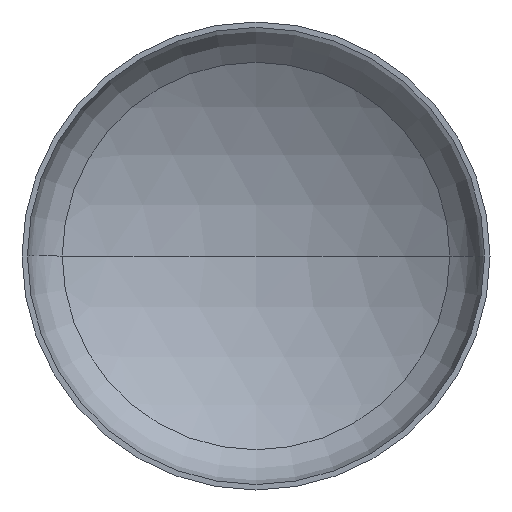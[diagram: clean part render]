
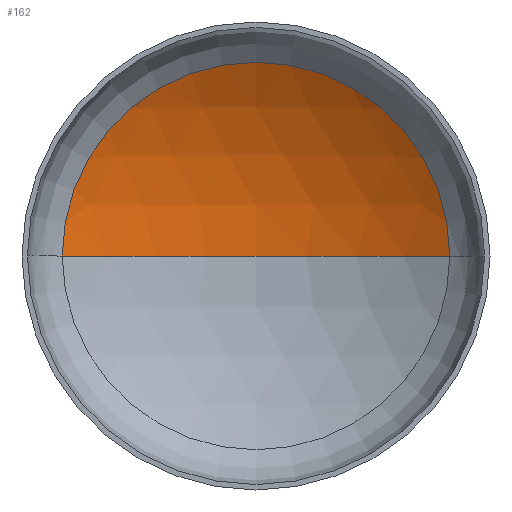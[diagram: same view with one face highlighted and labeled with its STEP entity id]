
A CAD part, front view. The second image highlights one B-rep face of the part: STEP entity #162.
In plain terms, the highlighted spherical face has radius 1920 mm.
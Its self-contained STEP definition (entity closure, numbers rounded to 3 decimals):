
#3 = DIRECTION ( 'NONE',  ( 0., -1., 0. ) ) ;
#4 = AXIS2_PLACEMENT_3D ( 'NONE', #398, #309, #212 ) ;
#17 = CARTESIAN_POINT ( 'NONE',  ( 993.445, 401.621, 0. ) ) ;
#29 = EDGE_LOOP ( 'NONE', ( #58, #41, #143 ) ) ;
#30 = DIRECTION ( 'NONE',  ( -1., 0., 0. ) ) ;
#31 = DIRECTION ( 'NONE',  ( 0., 0., -1. ) ) ;
#38 = AXIS2_PLACEMENT_3D ( 'NONE', #181, #203, #204 ) ;
#41 = ORIENTED_EDGE ( 'NONE', *, *, #95, .T. ) ;
#44 = AXIS2_PLACEMENT_3D ( 'NONE', #231, #31, #30 ) ;
#46 = AXIS2_PLACEMENT_3D ( 'NONE', #199, #3, #279 ) ;
#54 = VERTEX_POINT ( 'NONE', #247 ) ;
#58 = ORIENTED_EDGE ( 'NONE', *, *, #346, .F. ) ;
#84 = EDGE_CURVE ( 'NONE', #125, #269, #302, .T. ) ;
#95 = EDGE_CURVE ( 'NONE', #54, #125, #246, .T. ) ;
#98 = CARTESIAN_POINT ( 'NONE',  ( -993.445, 401.621, 0. ) ) ;
#125 = VERTEX_POINT ( 'NONE', #17 ) ;
#143 = ORIENTED_EDGE ( 'NONE', *, *, #84, .T. ) ;
#162 = ADVANCED_FACE ( 'NONE', ( #294 ), #237, .F. ) ;
#181 = CARTESIAN_POINT ( 'NONE',  ( 0., -1241.385, 0. ) ) ;
#199 = CARTESIAN_POINT ( 'NONE',  ( 0., 401.621, 0. ) ) ;
#203 = DIRECTION ( 'NONE',  ( 0., 0., -1. ) ) ;
#204 = DIRECTION ( 'NONE',  ( -1., 0., 0. ) ) ;
#212 = DIRECTION ( 'NONE',  ( 1., 0., 0. ) ) ;
#231 = CARTESIAN_POINT ( 'NONE',  ( 0., -1241.385, 0. ) ) ;
#237 = SPHERICAL_SURFACE ( 'NONE', #38, 1920. ) ;
#246 = CIRCLE ( 'NONE', #44, 1920. ) ;
#247 = CARTESIAN_POINT ( 'NONE',  ( 0., 678.615, 0. ) ) ;
#269 = VERTEX_POINT ( 'NONE', #98 ) ;
#279 = DIRECTION ( 'NONE',  ( 1., 0., 0. ) ) ;
#294 = FACE_OUTER_BOUND ( 'NONE', #29, .T. ) ;
#302 = CIRCLE ( 'NONE', #46, 993.445 ) ;
#309 = DIRECTION ( 'NONE',  ( 0., 0., 1. ) ) ;
#346 = EDGE_CURVE ( 'NONE', #54, #269, #387, .T. ) ;
#387 = CIRCLE ( 'NONE', #4, 1920. ) ;
#398 = CARTESIAN_POINT ( 'NONE',  ( 0., -1241.385, 0. ) ) ;
